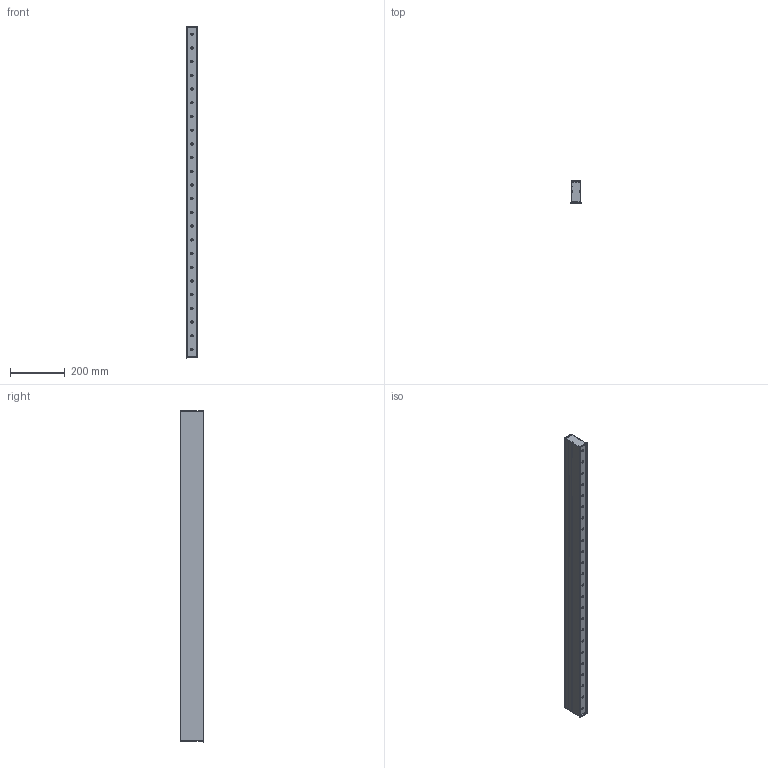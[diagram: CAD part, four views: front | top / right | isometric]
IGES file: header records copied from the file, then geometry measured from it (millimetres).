
Start section: SolidWorks IGES file using analytic representation for surfaces
Global section: file name: C:\Users\JoãoSantos\Desktop\02_3D.2D\01_2020\02_Linear\14_inVision35\02_Recessed\INVISION35_RECESSED_1211.IGS; native system: SolidWorks 2020; preprocessor: SolidWorks 2020; author: JoãoSantos; date: 201028.154542; units: millimetre
Bounding box: 42 x 83 x 1211 mm (x, y, z)
Surface area: 702406.8 mm2 (no closed solid volume)
Topology: 0 solids, 0 shells, 245 faces, 3292 edges, 3284 vertices
Faces by surface type: revolution 147, bspline 98
